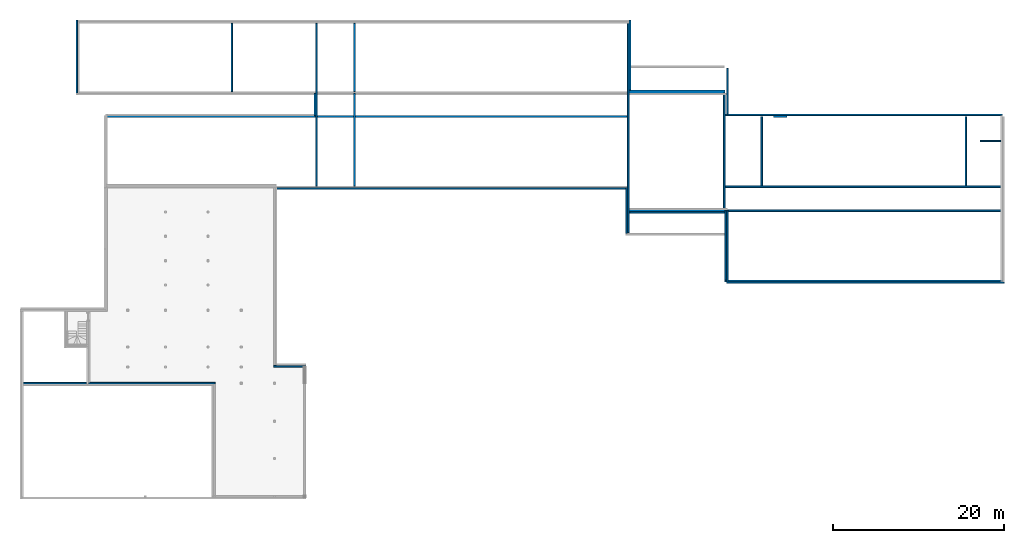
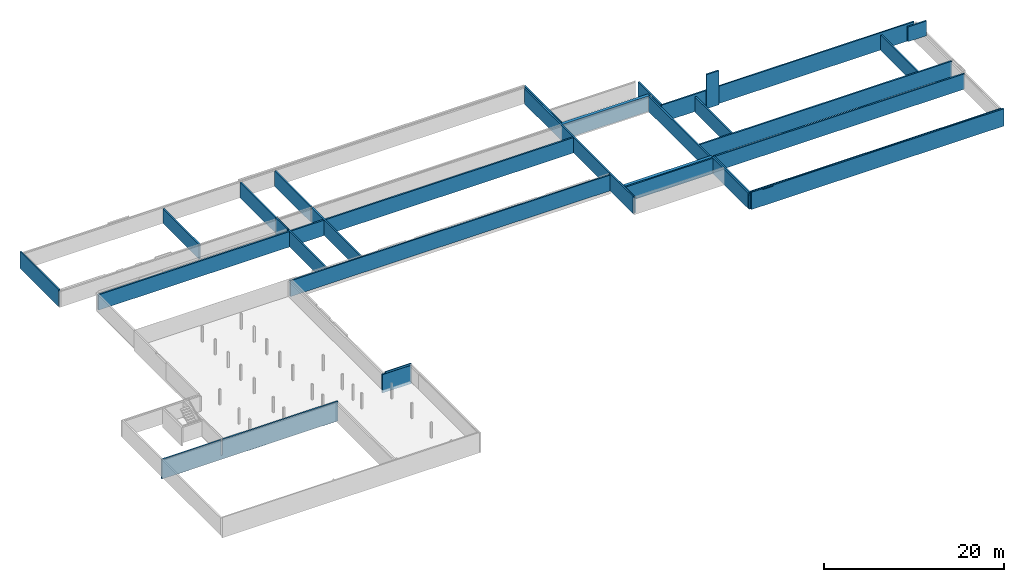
# One storey, part 3 of 6: 29 walls, 1 opening.
"""IFC2X3 building model written with IfcOpenShell, lengths in centimetres."""

from ifc_helpers import new_model, entity, si_unit, converted_unit, derived_unit, direction, frame, frame_2d, origin, place, context, subcontext, project, spatial, polyline, rectangle, extrude, clip, halfspace, bounded_halfspace, faceted_brep, material, layer, layer_set, layer_usage, type_object, element, save


model = new_model("IFC2X3")

# Units and contexts
model_context = context("Model", 3, precision=0.001, world=origin(), true_north=direction((6.12303176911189e-17, 1.0)))
body_context = subcontext(model_context, "Body", "Model", "MODEL_VIEW")
ifc_project = project(units=[si_unit("LENGTHUNIT", "METRE", prefix="CENTI"), si_unit("AREAUNIT", "SQUARE_METRE"), si_unit("VOLUMEUNIT", "CUBIC_METRE"), converted_unit("PLANEANGLEUNIT", "DEGREE", entity("IfcRatioMeasure", 0.0174532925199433), si_unit("PLANEANGLEUNIT", "RADIAN"), dimensions=[0, 0, 0, 0, 0, 0, 0]), si_unit("MASSUNIT", "GRAM", prefix="KILO"), derived_unit("MASSDENSITYUNIT", [(si_unit("MASSUNIT", "GRAM", prefix="KILO"), 1), (si_unit("LENGTHUNIT", "METRE"), -3)]), si_unit("TIMEUNIT", "SECOND"), si_unit("FREQUENCYUNIT", "HERTZ"), si_unit("THERMODYNAMICTEMPERATUREUNIT", "DEGREE_CELSIUS"), derived_unit("THERMALTRANSMITTANCEUNIT", [(si_unit("MASSUNIT", "GRAM", prefix="KILO"), 1), (si_unit("THERMODYNAMICTEMPERATUREUNIT", "KELVIN"), -1), (si_unit("TIMEUNIT", "SECOND"), -3)]), derived_unit("VOLUMETRICFLOWRATEUNIT", [(si_unit("LENGTHUNIT", "METRE"), 3), (si_unit("TIMEUNIT", "SECOND"), -1)]), si_unit("ELECTRICCURRENTUNIT", "AMPERE"), si_unit("ELECTRICVOLTAGEUNIT", "VOLT"), si_unit("POWERUNIT", "WATT"), si_unit("FORCEUNIT", "NEWTON", prefix="KILO"), si_unit("ILLUMINANCEUNIT", "LUX"), si_unit("LUMINOUSFLUXUNIT", "LUMEN"), si_unit("LUMINOUSINTENSITYUNIT", "CANDELA"), derived_unit("USERDEFINED", [(si_unit("MASSUNIT", "GRAM", prefix="KILO"), -1), (si_unit("LENGTHUNIT", "METRE"), -2), (si_unit("TIMEUNIT", "SECOND"), 3), (si_unit("LUMINOUSFLUXUNIT", "LUMEN"), 1)]), derived_unit("LINEARVELOCITYUNIT", [(si_unit("LENGTHUNIT", "METRE"), 1), (si_unit("TIMEUNIT", "SECOND"), -1)]), si_unit("PRESSUREUNIT", "PASCAL"), derived_unit("USERDEFINED", [(si_unit("LENGTHUNIT", "METRE"), -2), (si_unit("MASSUNIT", "GRAM", prefix="KILO"), 1), (si_unit("TIMEUNIT", "SECOND"), -2)])], contexts=[model_context])

# Site, building, storey
site_placement = place(None, frame((-2781.94577612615, 7442.24238424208, 0.0)))
site = spatial("IfcSite", under=ifc_project, at=site_placement, Name="Default", CompositionType="ELEMENT")
building_placement = place(site_placement, origin())
building = spatial("IfcBuilding", under=site, at=building_placement, CompositionType="ELEMENT")
storey_placement = place(building_placement, frame((0.0, 0.0, -234.674140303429)))
storey = spatial("IfcBuildingStorey", under=building, at=storey_placement, Name="Vide Sanitaire", CompositionType="ELEMENT", Elevation=-234.674140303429)

# Walls
ifc_material_1 = material(Name="01 - Maçonnerie")
ifc_layer_1 = layer(ifc_material_1, 20.0)
ifc_layer_set_1 = layer_set([ifc_layer_1], Name="Mur de base:04 - Structure - béton - 20cm")
ifc_layer_usage_1 = layer_usage(ifc_layer_set_1, "AXIS2", "NEGATIVE", 10.0)
wall_type_1 = type_object("IfcWallType", Name="Mur de base:04 - Structure - béton - 20cm", PredefinedType="STANDARD", material=ifc_layer_set_1)
wall_1_placement = place(storey_placement, frame((-427.999882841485, -3020.3134995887, 0.0), z_axis=(0.0, 0.0, 1.0), x_axis=(-1.0, 0.0, 0.0)))
element("IfcWallStandardCase", 1, at=wall_1_placement, inside=storey, type_object=wall_type_1, material=ifc_layer_usage_1, Name="Mur de base:04 - Structure - béton - 20cm", ObjectType="Mur de base:04 - Structure - béton - 20cm", context=body_context, shape_type="Clipping", body=[
    clip(extrude(rectangle(XDim=3221.49999684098, YDim=19.9999999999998, at=frame_2d((1610.74999842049, -2.1316282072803e-14), x_axis=(-1.0, 0.0))), origin(), (0.0, 0.0, 1.0), 190.0), halfspace(frame((0.0, -10.0, 190.0), z_axis=(0.0, 0.0, 1.0), x_axis=(0.0, 1.0, 0.0)), False)),
])
ifc_layer_usage_2 = layer_usage(ifc_layer_set_1, "AXIS2", "NEGATIVE", 10.0)
wall_2_placement = place(storey_placement, frame((-3639.49987968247, -3010.31349958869, 0.0), z_axis=(0.0, 0.0, 1.0), x_axis=(0.0, 1.0, 0.0)))
element("IfcWallStandardCase", 2, at=wall_2_placement, inside=storey, type_object=wall_type_1, material=ifc_layer_usage_2, Name="Mur de base:04 - Structure - béton - 20cm", ObjectType="Mur de base:04 - Structure - béton - 20cm", context=body_context, shape_type="Clipping", body=[
    clip(extrude(rectangle(XDim=810.0, YDim=19.9999999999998, at=frame_2d((405.0, -2.8421709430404e-14), x_axis=(-1.0, 0.0))), origin(), (0.0, 0.0, 1.0), 208.674140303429), bounded_halfspace(frame((810.0, -10.0, 208.674140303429), z_axis=(0.0, 0.0, -1.0), x_axis=(-1.0, 0.0, 0.0)), True, frame((810.0, -10.0, 208.674140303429)), polyline([(0.0, 0.0), (0.0, 7.10442922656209), (0.0, 20.0), (-263.533067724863, 20.0), (-263.533067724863, 7.10442922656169), (-810.0, 7.10442922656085), (-810.0, 0.0), (0.0, 0.0)]))),
])
ifc_layer_usage_3 = layer_usage(ifc_layer_set_1, "AXIS2", "NEGATIVE", 10.0)
wall_3_placement = place(storey_placement, frame((-4777.99987760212, -2456.15656731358, 0.0), z_axis=(0.0, 0.0, 1.0), x_axis=(0.0, 1.0, 0.0)))
element("IfcWallStandardCase", 3, at=wall_3_placement, inside=storey, type_object=wall_type_1, material=ifc_layer_usage_3, Name="Mur de base:04 - Structure - béton - 20cm", ObjectType="Mur de base:04 - Structure - béton - 20cm", context=body_context, shape_type="Clipping", body=[
    clip(extrude(rectangle(XDim=2441.00000000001, YDim=20.0000000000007, at=frame_2d((1220.50000000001, -1.89182003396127e-13), x_axis=(-1.0, 0.0))), origin(), (0.0, 0.0, 1.0), 208.674140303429), bounded_halfspace(frame((2441.0, -8.72556480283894, 208.674140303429), z_axis=(0.0, 0.0, -1.0), x_axis=(-1.0, 0.0, 0.0)), True, frame((2441.0, -8.72556480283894, 208.674140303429)), polyline([(0.0, 0.0), (0.0, 18.7255648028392), (-794.891933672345, 18.7255648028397), (-814.891933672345, 18.7255648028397), (-1069.53343258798, 18.7255648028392), (-1069.53343258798, 0.0), (-493.391933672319, 0.0), (0.0, 0.0)]))),
])
wall_4_placement = place(storey_placement, frame((-8921.93218005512, -4016.27903364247, -40.0)))
element("IfcWall", 4, at=wall_4_placement, inside=storey, type_object=wall_type_1, Name="Mur de base:04 - Structure - béton - 20cm", ObjectType="Mur de base:04 - Structure - béton - 20cm", context=body_context, shape_type="Brep", body=[
    faceted_brep([(0.0, -10.0, 0.0), (372.944799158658, -10.0, 0.0), (372.944799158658, -10.0, 40.0), (372.944799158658, -10.0, 239.674140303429), (372.944799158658, -10.0, 248.674140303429), (0.0, -10.0, 248.674140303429), (372.944799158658, 10.0, 0.0), (20.0, 10.0, 0.0), (0.0, 10.0, 0.0), (0.0, 10.0, 248.674140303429), (20.0, 10.0, 248.674140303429), (40.0, 10.0, 248.674140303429), (40.0, 10.0, 254.674140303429), (372.944799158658, 10.0, 254.674140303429), (372.944799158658, 0.711907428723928, 254.674140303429), (372.944799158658, 0.711907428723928, 274.674140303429), (372.944799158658, -7.48999999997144, 274.674140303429), (372.944799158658, -7.48999999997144, 248.674140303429), (40.0, 0.711907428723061, 274.674140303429), (40.0, -7.48999999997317, 274.674140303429), (40.0, 0.711907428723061, 254.674140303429), (40.0, -7.48999999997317, 248.674140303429)], [[[0, 1, 2, 3, 4, 5]], [[6, 7, 8, 9, 10, 11, 12, 13]], [[8, 0, 5, 9]], [[1, 6, 13, 14, 15, 16, 17, 4, 3, 2]], [[1, 0, 8, 7, 6]], [[15, 18, 19, 16]], [[20, 14, 13, 12]], [[14, 20, 18, 15]], [[17, 21, 11, 10, 9, 5, 4]], [[21, 17, 16, 19]], [[21, 19, 18, 20, 12, 11]]]),
])
ifc_layer_usage_4 = layer_usage(ifc_layer_set_1, "AXIS2", "NEGATIVE", 10.0)
wall_5_placement = place(storey_placement, frame((-8419.49987766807, -1911.38903364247, 0.0), z_axis=(0.0, 0.0, 1.0), x_axis=(0.0, 1.0, 0.0)))
element("IfcWallStandardCase", 5, at=wall_5_placement, inside=storey, type_object=wall_type_1, material=ifc_layer_usage_4, Name="Mur de base:04 - Structure - béton - 20cm", ObjectType="Mur de base:04 - Structure - béton - 20cm", context=body_context, shape_type="Clipping", body=[
    clip(clip(extrude(rectangle(XDim=1901.38903364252, YDim=19.9999999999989, at=frame_2d((950.694516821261, 0.0), x_axis=(-1.0, 0.0))), origin(), (0.0, 0.0, 1.0), 208.674140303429), bounded_halfspace(frame((1095.3405326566, -10.0, 208.674140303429), z_axis=(0.0, 0.0, -1.0), x_axis=(-1.0, 0.0, 0.0)), True, frame((1095.3405326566, -10.0, 208.674140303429)), polyline([(0.0, 0.0), (6.0, 0.0), (806.048500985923, 0.0), (806.048500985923, 20.0), (0.0, 20.0), (0.0, 0.0)]))), bounded_halfspace(frame((0.0, -10.0, 208.674140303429), z_axis=(0.0, 0.0, -1.0), x_axis=(-1.0, 0.0, 0.0)), True, frame((0.0, -10.0, 208.674140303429)), polyline([(0.0, 0.0), (835.389033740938, 0.0), (835.389033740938, 20.0), (0.0, 20.0), (0.0, 0.0)]))),
])
ifc_layer_usage_5 = layer_usage(ifc_layer_set_1, "AXIS2", "NEGATIVE", 10.0)
wall_6_placement = place(storey_placement, frame((-3657.99987968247, -830.048500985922, 0.0), z_axis=(0.0, 0.0, 1.0), x_axis=(0.0, -1.0, 0.0)))
element("IfcWallStandardCase", 6, at=wall_6_placement, inside=storey, type_object=wall_type_1, material=ifc_layer_usage_5, Name="Mur de base:04 - Structure - béton - 20cm", ObjectType="Mur de base:04 - Structure - béton - 20cm", context=body_context, shape_type="Clipping", body=[
    clip(extrude(rectangle(XDim=1342.66808075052, YDim=19.9999999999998, at=frame_2d((671.334040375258, -4.35207425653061e-14), x_axis=(-1.0, 0.0))), origin(), (0.0, 0.0, 1.0), 208.674140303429), bounded_halfspace(frame((258.641498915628, -10.0, 208.674140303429), z_axis=(0.0, 0.0, -1.0), x_axis=(1.0, 0.0, 0.0)), True, frame((258.641498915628, -10.0, 208.674140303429)), polyline([(0.0, 0.0), (1084.02658183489, 0.0), (1084.02658183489, 20.0), (841.38903374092, 20.0), (821.38903374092, 20.0), (0.0, 20.0), (0.0, 0.0)]))),
])
ifc_layer_usage_6 = layer_usage(ifc_layer_set_1, "AXIS2", "NEGATIVE", 10.0)
wall_7_placement = place(storey_placement, frame((-409.999882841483, -1920.07903364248, 0.0), z_axis=(0.0, 0.0, 1.0), x_axis=(-1.0, 0.0, 0.0)))
element("IfcWallStandardCase", 7, at=wall_7_placement, inside=storey, type_object=wall_type_1, material=ifc_layer_usage_6, Name="Mur de base:04 - Structure - béton - 20cm", ObjectType="Mur de base:04 - Structure - béton - 20cm", context=body_context, shape_type="Clipping", body=[
    clip(extrude(rectangle(XDim=3237.99999684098, YDim=19.9999999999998, at=frame_2d((1618.99999842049, -2.66453525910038e-15), x_axis=(-1.0, 0.0))), origin(), (0.0, 0.0, 1.0), 208.674140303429), bounded_halfspace(frame((3238.0, 8.76753367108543, 208.674140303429), z_axis=(0.0, 0.0, -1.0), x_axis=(0.0, 1.0, 0.0)), True, frame((3238.0, 8.76753367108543, 208.674140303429)), polyline([(0.0, 0.0), (0.0, 1.23246632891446), (-3238.0, 1.23246632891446), (-3238.0, 0.0), (-3238.0, -18.7675336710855), (-2822.69999684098, -18.7675336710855), (-2802.69999684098, -18.7675336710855), (-438.40620433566, -18.7675336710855), (-418.406204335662, -18.7675336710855), (0.0, -18.7675336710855), (0.0, 0.0)]))),
])
ifc_layer_usage_7 = layer_usage(ifc_layer_set_1, "AXIS2", "NEGATIVE", 10.0)
wall_8_placement = place(storey_placement, frame((-3639.49987968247, -2200.15656731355, 0.0)))
element("IfcWallStandardCase", 8, at=wall_8_placement, inside=storey, type_object=wall_type_1, material=ifc_layer_usage_7, Name="Mur de base:04 - Structure - béton - 20cm", ObjectType="Mur de base:04 - Structure - béton - 20cm", context=body_context, shape_type="Clipping", body=[
    clip(extrude(rectangle(XDim=3229.49999684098, YDim=19.9999999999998, at=frame_2d((1614.74999842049, 6.21724893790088e-15), x_axis=(-1.0, 0.0))), origin(), (0.0, 0.0, 1.0), 208.674140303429), bounded_halfspace(frame((0.0, -10.0, 208.674140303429), z_axis=(0.0, 0.0, -1.0), x_axis=(0.0, -1.0, 0.0)), True, frame((0.0, -10.0, 208.674140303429)), polyline([(0.0, 0.0), (3229.49999684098, 0.0), (3229.49999684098, 20.0), (0.0, 20.0), (0.0, 0.0)]))),
])
ifc_layer_usage_8 = layer_usage(ifc_layer_set_1, "AXIS2", "NEGATIVE", 10.0)
wall_9_placement = place(storey_placement, frame((-3081.79988284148, -1100.0, 0.0)))
element("IfcWallStandardCase", 9, at=wall_9_placement, inside=storey, type_object=wall_type_1, material=ifc_layer_usage_8, Name="Mur de base:04 - Structure - béton - 20cm", ObjectType="Mur de base:04 - Structure - béton - 20cm", context=body_context, shape_type="SweptSolid", body=[
    extrude(rectangle(XDim=155.750000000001, YDim=20.0000000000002, at=frame_2d((77.8750000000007, 1.59872115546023e-14), x_axis=(-1.0, 0.0))), origin(), (0.0, 0.0, 1.0), 463.0),
])
ifc_layer_usage_9 = layer_usage(ifc_layer_set_1, "AXIS2", "NEGATIVE", 10.0)
wall_10_placement = place(storey_placement, frame((-3219.59367534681, -1100.0, 0.0), z_axis=(0.0, 0.0, 1.0), x_axis=(0.0, -1.0, 0.0)))
element("IfcWallStandardCase", 10, at=wall_10_placement, inside=storey, type_object=wall_type_1, material=ifc_layer_usage_9, Name="Mur de base:04 - Structure - béton - 20cm", ObjectType="Mur de base:04 - Structure - béton - 20cm", context=body_context, shape_type="Clipping", body=[
    clip(extrude(rectangle(XDim=810.079033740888, YDim=19.9999999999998, at=frame_2d((405.039516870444, -2.22044604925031e-14), x_axis=(-1.0, 0.0))), origin(), (0.0, 0.0, 1.0), 208.674140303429), bounded_halfspace(frame((0.0, -10.0, 208.674140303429), z_axis=(0.0, 0.0, -1.0), x_axis=(1.0, 0.0, 0.0)), True, frame((0.0, -10.0, 208.674140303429)), polyline([(0.0, 0.0), (810.079033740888, 0.0), (810.079033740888, 20.0), (0.0, 20.0), (0.0, 0.0)]))),
])
ifc_layer_usage_10 = layer_usage(ifc_layer_set_1, "AXIS2", "NEGATIVE", 10.0)
wall_11_placement = place(storey_placement, frame((-835.299882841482, -1100.0, 0.0), z_axis=(0.0, 0.0, 1.0), x_axis=(0.0, -1.0, 0.0)))
element("IfcWallStandardCase", 11, at=wall_11_placement, inside=storey, type_object=wall_type_1, material=ifc_layer_usage_10, Name="Mur de base:04 - Structure - béton - 20cm", ObjectType="Mur de base:04 - Structure - béton - 20cm", context=body_context, shape_type="Clipping", body=[
    clip(extrude(rectangle(XDim=810.079033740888, YDim=20.0, at=frame_2d((405.039516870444, -2.22044604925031e-14), x_axis=(-1.0, 0.0))), origin(), (0.0, 0.0, 1.0), 208.674140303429), bounded_halfspace(frame((0.0, -10.0, 208.674140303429), z_axis=(0.0, 0.0, -1.0), x_axis=(1.0, 0.0, 0.0)), True, frame((0.0, -10.0, 208.674140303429)), polyline([(0.0, 0.0), (810.079033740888, 0.0), (810.079033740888, 20.0), (0.0, 20.0), (0.0, 0.0)]))),
])
ifc_layer_usage_11 = layer_usage(ifc_layer_set_1, "AXIS2", "NEGATIVE", 10.0)
wall_12_placement = place(storey_placement, frame((-10881.6130476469, -1100.0, 0.0)))
element("IfcWallStandardCase", 12, at=wall_12_placement, inside=storey, type_object=wall_type_1, material=ifc_layer_usage_11, Name="Mur de base:04 - Structure - béton - 20cm", ObjectType="Mur de base:04 - Structure - béton - 20cm", context=body_context, shape_type="SweptSolid", body=[
    extrude(rectangle(XDim=6093.61317004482, YDim=19.9999999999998, at=frame_2d((3046.80658502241, -1.59872115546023e-14), x_axis=(-1.0, 0.0))), origin(), (0.0, 0.0, 1.0), 208.674140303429),
])
wall_13_placement = place(storey_placement, frame((-9604.98738089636, -4215.50027342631, -55.1214879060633), z_axis=(0.0, 0.0, 1.0), x_axis=(-1.0, 0.0, 0.0)))
element("IfcWall", 13, at=wall_13_placement, inside=storey, type_object=wall_type_1, Name="Mur de base:04 - Structure - béton - 20cm", ObjectType="Mur de base:04 - Structure - béton - 20cm", context=body_context, shape_type="Brep", body=[
    faceted_brep([(0.0, -10.0, 0.0), (2259.36319372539, -10.0, 0.0), (2259.36319372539, -10.0, 263.795628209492), (1499.89542707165, -10.0, 263.795628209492), (1499.89542707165, -10.0, 55.1214879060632), (1481.89542707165, -10.0, 55.1214879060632), (1481.89542707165, -10.0, 263.795628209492), (1461.89542707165, -10.0, 263.795628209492), (0.0, -10.0, 263.795628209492), (2259.36319372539, 10.0, 0.0), (0.0, 10.0, 0.0), (0.0, 10.0, 15.1214879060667), (0.0, 10.0, 254.795628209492), (0.0, 10.0, 263.795628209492), (1481.89542707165, 10.0, 263.795628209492), (1481.89542707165, 10.0, 55.1214879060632), (1499.89542707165, 10.0, 55.1214879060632), (1499.89542707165, 10.0, 263.795628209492), (2259.36319372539, 10.0, 263.795628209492)], [[[0, 1, 2, 3, 4, 5, 6, 7, 8]], [[9, 10, 11, 12, 13, 14, 15, 16, 17, 18]], [[2, 18, 17, 3]], [[2, 1, 9, 18]], [[0, 8, 13, 12, 11, 10]], [[16, 4, 3, 17]], [[5, 15, 14, 6]], [[4, 16, 15, 5]], [[1, 0, 10, 9]], [[13, 8, 7, 6, 14]]]),
])
ifc_layer_usage_12 = layer_usage(ifc_layer_set_1, "AXIS2", "NEGATIVE", 10.0)
wall_14_placement = place(storey_placement, frame((-9409.49987766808, -810.0485009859, 0.0), z_axis=(0.0, 0.0, 1.0), x_axis=(0.0, 1.0, 0.0)))
element("IfcWallStandardCase", 14, at=wall_14_placement, inside=storey, type_object=wall_type_1, material=ifc_layer_usage_12, Name="Mur de base:04 - Structure - béton - 20cm", ObjectType="Mur de base:04 - Structure - béton - 20cm", context=body_context, shape_type="Clipping", body=[
    clip(extrude(rectangle(XDim=800.048500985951, YDim=19.9999999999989, at=frame_2d((400.024250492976, 0.0), x_axis=(-1.0, 0.0))), origin(), (0.0, 0.0, 1.0), 199.674140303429), bounded_halfspace(frame((0.0, -10.0, 199.674140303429), z_axis=(0.0, 0.0, -1.0), x_axis=(-1.0, 0.0, 0.0)), True, frame((0.0, -10.0, 199.674140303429), z_axis=(0.0, 0.0, -1.0), x_axis=(-1.0, 0.0, 0.0)), polyline([(0.0, 0.0), (0.0, 20.0), (-800.048500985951, 20.0), (-800.048500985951, 0.0), (0.0, 0.0)]))),
])
wall_15_placement = place(storey_placement, frame((-7976.49987760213, -1911.38903364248, 0.0), z_axis=(0.0, 0.0, 1.0), x_axis=(0.0, 1.0, 0.0)))
element("IfcWall", 15, at=wall_15_placement, inside=storey, type_object=wall_type_1, Name="Mur de base:04 - Structure - béton - 20cm", ObjectType="Mur de base:04 - Structure - béton - 20cm", context=body_context, shape_type="SweptSolid", body=[
    extrude(rectangle(XDim=1081.34053265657, YDim=20.0000000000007, at=frame_2d((-174.223422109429, 8.66862137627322e-13), x_axis=(1.0, 0.0))), frame((714.893688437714, 0.0, 0.0)), (0.0, 0.0, 1.0), 208.674140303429),
    extrude(rectangle(XDim=800.048500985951, YDim=20.0000000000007, at=frame_2d((-1.13686837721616e-13, -8.66862137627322e-13), x_axis=(1.0, 0.0))), frame((1501.36478314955, 0.0, 0.0), z_axis=(0.0, 0.0, 1.0), x_axis=(-1.0, 0.0, 0.0)), (0.0, 0.0, 1.0), 208.674140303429),
])
ifc_layer_usage_13 = layer_usage(ifc_layer_set_1, "AXIS2", "NEGATIVE", 10.0)
wall_16_placement = place(storey_placement, frame((-3629.49987968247, -3020.31349958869, 0.0)))
element("IfcWallStandardCase", 16, at=wall_16_placement, inside=storey, type_object=wall_type_1, material=ifc_layer_usage_13, Name="Mur de base:04 - Structure - béton - 20cm", ObjectType="Mur de base:04 - Structure - béton - 20cm", context=body_context, shape_type="Clipping", body=[
    clip(clip(extrude(rectangle(XDim=3219.49999684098, YDim=19.9999999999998, at=frame_2d((1609.74999842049, -9.76996261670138e-15), x_axis=(-1.0, 0.0))), origin(), (0.0, 0.0, 1.0), 234.674140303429), bounded_halfspace(frame((0.0, 4.0, 208.674140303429), z_axis=(0.0, 0.0, -1.0), x_axis=(0.0, -1.0, 0.0)), True, frame((0.0, 4.0, 208.674140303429), z_axis=(0.0, 0.0, -1.0), x_axis=(0.0, -1.0, 0.0)), polyline([(0.0, 0.0), (-6.0, 0.0), (-6.0, -3219.49999684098), (0.0, -3219.49999684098), (0.0, 0.0)]))), bounded_halfspace(frame((3219.49999684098, 4.0, 208.674140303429), z_axis=(0.0, -1.0, 0.0), x_axis=(0.0, 0.0, 1.0)), True, frame((3219.49999684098, 4.0, 208.674140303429), z_axis=(0.0, -1.0, 0.0), x_axis=(0.0, 0.0, 1.0)), polyline([(0.0, 0.0), (26.0, 0.0), (26.0, 3219.49999684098), (0.0, 3219.49999684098), (0.0, 0.0)]))),
])
ifc_layer_usage_14 = layer_usage(ifc_layer_set_1, "AXIS2", "NEGATIVE", 10.0)
wall_17_placement = place(storey_placement, frame((-665.299882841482, -1384.07903364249, 234.674140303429)))
element("IfcWallStandardCase", 17, at=wall_17_placement, inside=storey, type_object=wall_type_1, material=ifc_layer_usage_14, Name="Mur de base:04 - Structure - béton - 20cm", ObjectType="Mur de base:04 - Structure - béton - 20cm", context=body_context, shape_type="SweptSolid", body=[
    extrude(rectangle(XDim=240.000000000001, YDim=19.9999999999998, at=frame_2d((120.000000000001, -6.12843109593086e-14), x_axis=(-1.0, 0.0))), origin(), (0.0, 0.0, 1.0), 199.44),
])
ifc_layer_2 = layer(ifc_material_1, 40.0)
ifc_layer_set_2 = layer_set([ifc_layer_2], Name="Mur de base:04 - Structure - Béton - 40")
ifc_layer_usage_15 = layer_usage(ifc_layer_set_2, "AXIS2", "NEGATIVE", 20.0)
wall_type_2 = type_object("IfcWallType", Name="Mur de base:04 - Structure - Béton - 40", PredefinedType="STANDARD", material=ifc_layer_set_2)
wall_18_placement = place(storey_placement, frame((-4767.99987760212, -810.048500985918, 0.0)))
element("IfcWallStandardCase", 18, at=wall_18_placement, inside=storey, type_object=wall_type_2, material=ifc_layer_usage_15, Name="Mur de base:04 - Structure - Béton - 40", ObjectType="Mur de base:04 - Structure - Béton - 40", context=body_context, shape_type="SweptSolid", body=[
    extrude(rectangle(XDim=1119.99999791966, YDim=40.0, at=frame_2d((559.999998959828, 0.0), x_axis=(-1.0, 0.0))), origin(), (0.0, 0.0, 1.0), 208.674140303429),
])
ifc_layer_usage_16 = layer_usage(ifc_layer_set_2, "AXIS2", "NEGATIVE", 20.0)
wall_19_placement = place(storey_placement, frame((-3639.49987968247, -2192.71658173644, 0.0), z_axis=(0.0, 0.0, 1.0), x_axis=(-1.0, 0.0, 0.0)))
element("IfcWallStandardCase", 19, at=wall_19_placement, inside=storey, type_object=wall_type_2, material=ifc_layer_usage_16, Name="Mur de base:04 - Structure - Béton - 40", ObjectType="Mur de base:04 - Structure - Béton - 40", context=body_context, shape_type="Clipping", body=[
    clip(extrude(rectangle(XDim=1128.49999791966, YDim=39.9999999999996, at=frame_2d((564.249998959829, 1.4210854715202e-14), x_axis=(-1.0, 0.0))), origin(), (0.0, 0.0, 1.0), 208.674140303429), bounded_halfspace(frame((0.0, -20.0, 208.674140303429), z_axis=(0.0, 0.0, -1.0), x_axis=(0.0, 1.0, 0.0)), True, frame((0.0, -20.0, 208.674140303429)), polyline([(0.0, 0.0), (8.50000000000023, 0.0), (28.5000000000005, 0.0), (1128.49999791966, 0.0), (1128.49999791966, 40.0), (0.0, 40.0), (0.0, 37.4399855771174), (0.0, 17.4399855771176), (0.0, 0.0)]))),
])
ifc_material_2 = material(Name="00 - Isolant")
ifc_layer_3 = layer(ifc_material_2, 18.0)
ifc_layer_set_3 = layer_set([ifc_layer_3], Name="Mur de base:04 - Parement - ITE 18 - isolation enterrée")
ifc_layer_usage_17 = layer_usage(ifc_layer_set_3, "AXIS2", "NEGATIVE", 9.0)
wall_type_3 = type_object("IfcWallType", Name="Mur de base:04 - Parement - ITE 18 - isolation enterrée", PredefinedType="STANDARD", material=ifc_layer_set_3)
wall_20_placement = place(storey_placement, frame((-3647.99987968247, -1081.0, 0.0)))
element("IfcWallStandardCase", 20, at=wall_20_placement, inside=storey, type_object=wall_type_3, material=ifc_layer_usage_17, Name="Mur de base:04 - Parement - ITE 18 - isolation enterrée", ObjectType="Mur de base:04 - Parement - ITE 18 - isolation enterrée", context=body_context, shape_type="SweptSolid", body=[
    extrude(rectangle(XDim=3237.99999684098, YDim=17.9999999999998, at=frame_2d((1618.99999842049, -2.66453525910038e-15), x_axis=(-1.0, 0.0))), origin(), (0.0, 0.0, 1.0), 234.674140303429),
])

# Wall, opening
ifc_layer_usage_18 = layer_usage(ifc_layer_set_3, "AXIS2", "NEGATIVE", 9.0)
wall_21_placement = place(storey_placement, frame((-389.999882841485, -3039.3134995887, 0.0), z_axis=(0.0, 0.0, 1.0), x_axis=(-1.0, 0.0, 0.0)))
wall_21 = element("IfcWallStandardCase", 21, at=wall_21_placement, inside=storey, type_object=wall_type_3, material=ifc_layer_usage_18, Name="Mur de base:04 - Parement - ITE 18 - isolation enterrée", ObjectType="Mur de base:04 - Parement - ITE 18 - isolation enterrée", context=body_context, shape_type="SweptSolid", body=[
    extrude(rectangle(XDim=3239.49999684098, YDim=18.0000000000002, at=frame_2d((1619.74999842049, -2.1316282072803e-14), x_axis=(-1.0, 0.0))), origin(), (0.0, 0.0, 1.0), 234.674140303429),
])
opening_placement = place(wall_21_placement, frame((3096.68392582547, 11.1000000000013, 219.674140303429)))
element("IfcOpeningElement", 22, at=opening_placement, cuts=wall_21, Name="Mur de base:04 - Parement - ITE 18 - isolation enterrée", ObjectType="Opening", context=body_context, shape_type="Brep", body=[
    faceted_brep([(-2.0, 0.0, 319.0), (-2.0, 0.0, 0.0), (-134.383925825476, 0.0, 0.0), (-134.383925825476, 0.0, 319.0), (-2.0, -1.30000000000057, 319.0), (-2.0, -1.30000000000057, 0.0), (0.0, -1.30000000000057, 0.0), (0.0, -61.3000000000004, 0.0), (-136.383925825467, -61.3000000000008, 0.0), (-136.383925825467, -1.300000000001, 0.0), (-134.383925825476, -1.30000000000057, 0.0), (-134.383925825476, -1.30000000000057, 319.0), (-136.383925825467, -61.3000000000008, 321.0), (0.0, -61.3000000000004, 321.0), (-136.383925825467, -1.300000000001, 321.0), (0.0, -1.30000000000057, 321.0)], [[[0, 1, 2, 3]], [[1, 0, 4, 5]], [[2, 1, 5, 6, 7, 8, 9, 10]], [[3, 2, 10, 11]], [[0, 3, 11, 4]], [[12, 8, 7, 13]], [[14, 15, 6, 5, 4, 11, 10, 9]], [[8, 12, 14, 9]], [[13, 7, 6, 15]], [[12, 13, 15, 14]]]),
])

# Walls
ifc_layer_usage_19 = layer_usage(ifc_layer_set_3, "AXIS2", "NEGATIVE", 9.0)
wall_22_placement = place(storey_placement, frame((-3620.49987968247, -3030.31349958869, 0.0), z_axis=(0.0, 0.0, 1.0), x_axis=(0.0, 1.0, 0.0)))
element("IfcWallStandardCase", 23, at=wall_22_placement, inside=storey, type_object=wall_type_3, material=ifc_layer_usage_19, Name="Mur de base:04 - Parement - ITE 18 - isolation enterrée", ObjectType="Mur de base:04 - Parement - ITE 18 - isolation enterrée", context=body_context, shape_type="Clipping", body=[
    clip(extrude(rectangle(XDim=830.0, YDim=18.0000000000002, at=frame_2d((415.0, -1.33226762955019e-14), x_axis=(-1.0, 0.0))), origin(), (0.0, 0.0, 1.0), 208.674140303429), bounded_halfspace(frame((830.0, 9.0, 208.674140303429), z_axis=(0.0, 0.0, -1.0), x_axis=(-1.0, 0.0, 0.0)), True, frame((830.0, 9.0, 208.674140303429)), polyline([(0.0, 0.0), (-12.4030821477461, 0.0), (-30.4030821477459, 0.0), (-816.0, 0.0), (-816.0, -18.0), (-810.0, -18.0), (-9.84306772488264, -18.0), (0.0, -18.0), (0.0, 0.0)]))),
])
ifc_layer_usage_20 = layer_usage(ifc_layer_set_3, "AXIS2", "NEGATIVE", 9.0)
wall_23_placement = place(storey_placement, frame((-4797.49987760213, -2465.15656731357, 0.0), z_axis=(0.0, 0.0, 1.0), x_axis=(0.0, 1.0, 0.0)))
element("IfcWallStandardCase", 24, at=wall_23_placement, inside=storey, type_object=wall_type_3, material=ifc_layer_usage_20, Name="Mur de base:04 - Parement - ITE 18 - isolation enterrée", ObjectType="Mur de base:04 - Parement - ITE 18 - isolation enterrée", context=body_context, shape_type="SweptSolid", body=[
    extrude(rectangle(XDim=533.767533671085, YDim=17.9999999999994, at=frame_2d((266.883766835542, -8.88178419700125e-16), x_axis=(-1.0, 0.0))), origin(), (0.0, 0.0, 1.0), 234.674140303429),
])
ifc_layer_usage_21 = layer_usage(ifc_layer_set_3, "AXIS2", "NEGATIVE", 9.0)
wall_24_placement = place(storey_placement, frame((-4787.99987760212, -1939.07903364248, 0.0), z_axis=(0.0, 0.0, 1.0), x_axis=(-1.0, 0.0, 0.0)))
element("IfcWallStandardCase", 25, at=wall_24_placement, inside=storey, type_object=wall_type_3, material=ifc_layer_usage_21, Name="Mur de base:04 - Parement - ITE 18 - isolation enterrée", ObjectType="Mur de base:04 - Parement - ITE 18 - isolation enterrée", context=body_context, shape_type="SweptSolid", body=[
    extrude(rectangle(XDim=4113.93230245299, YDim=17.9999999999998, at=frame_2d((2056.9661512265, -3.01980662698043e-14), x_axis=(-1.0, 0.0))), origin(), (0.0, 0.0, 1.0), 214.674140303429),
])
ifc_layer_usage_22 = layer_usage(ifc_layer_set_3, "AXIS2", "NEGATIVE", 9.0)
wall_25_placement = place(storey_placement, frame((-8438.49987766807, -1090.0, 0.0), z_axis=(0.0, 0.0, 1.0), x_axis=(0.0, 1.0, 0.0)))
element("IfcWallStandardCase", 26, at=wall_25_placement, inside=storey, type_object=wall_type_3, material=ifc_layer_usage_22, Name="Mur de base:04 - Parement - ITE 18 - isolation enterrée", ObjectType="Mur de base:04 - Parement - ITE 18 - isolation enterrée", context=body_context, shape_type="SweptSolid", body=[
    extrude(rectangle(XDim=259.951498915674, YDim=17.9999999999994, at=frame_2d((129.975749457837, 0.0), x_axis=(-1.0, 0.0))), origin(), (0.0, 0.0, 1.0), 234.674140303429),
])
ifc_layer_usage_23 = layer_usage(ifc_layer_set_3, "AXIS2", "NEGATIVE", 9.0)
wall_26_placement = place(storey_placement, frame((-11219.6616968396, -830.048500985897, 0.0), z_axis=(0.0, 0.0, 1.0), x_axis=(0.0, 1.0, 0.0)))
element("IfcWallStandardCase", 27, at=wall_26_placement, inside=storey, type_object=wall_type_3, material=ifc_layer_usage_23, Name="Mur de base:04 - Parement - ITE 18 - isolation enterrée", ObjectType="Mur de base:04 - Parement - ITE 18 - isolation enterrée", context=body_context, shape_type="SweptSolid", body=[
    extrude(rectangle(XDim=858.048500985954, YDim=17.9999999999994, at=frame_2d((429.024250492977, 1.86517468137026e-14), x_axis=(-1.0, 0.0))), origin(), (0.0, 0.0, 1.0), 228.674140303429),
])
ifc_layer_usage_24 = layer_usage(ifc_layer_set_3, "AXIS2", "NEGATIVE", 9.0)
wall_27_placement = place(storey_placement, frame((-4758.99987760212, 28.0, 0.0), z_axis=(0.0, 0.0, 1.0), x_axis=(0.0, -1.0, 0.0)))
element("IfcWallStandardCase", 28, at=wall_27_placement, inside=storey, type_object=wall_type_3, material=ifc_layer_usage_24, Name="Mur de base:04 - Parement - ITE 18 - isolation enterrée", ObjectType="Mur de base:04 - Parement - ITE 18 - isolation enterrée", context=body_context, shape_type="SweptSolid", body=[
    extrude(rectangle(XDim=818.048500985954, YDim=17.9999999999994, at=frame_2d((409.024250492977, 2.23820961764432e-13), x_axis=(-1.0, 0.0))), origin(), (0.0, 0.0, 1.0), 214.674140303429),
])
ifc_layer_usage_25 = layer_usage(ifc_layer_set_3, "AXIS2", "NEGATIVE", 9.0)
wall_28_placement = place(storey_placement, frame((-3620.49987968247, -536.548500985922, 0.0), z_axis=(0.0, 0.0, 1.0), x_axis=(0.0, -1.0, 0.0)))
element("IfcWallStandardCase", 29, at=wall_28_placement, inside=storey, type_object=wall_type_3, material=ifc_layer_usage_25, Name="Mur de base:04 - Parement - ITE 18 - isolation enterrée", ObjectType="Mur de base:04 - Parement - ITE 18 - isolation enterrée", context=body_context, shape_type="SweptSolid", body=[
    extrude(rectangle(XDim=535.451498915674, YDim=18.0000000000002, at=frame_2d((267.725749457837, -4.44089209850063e-15), x_axis=(-1.0, 0.0))), origin(), (0.0, 0.0, 1.0), 208.674140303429),
])
ifc_layer_usage_26 = layer_usage(ifc_layer_set_3, "AXIS2", "NEGATIVE", 9.0)
wall_29_placement = place(storey_placement, frame((-4758.99987760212, -2221.71658173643, 0.0)))
element("IfcWallStandardCase", 30, at=wall_29_placement, inside=storey, type_object=wall_type_3, material=ifc_layer_usage_26, Name="Mur de base:04 - Parement - ITE 18 - isolation enterrée", ObjectType="Mur de base:04 - Parement - ITE 18 - isolation enterrée", context=body_context, shape_type="Clipping", body=[
    clip(extrude(rectangle(XDim=1129.49999791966, YDim=18.0000000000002, at=frame_2d((564.749998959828, 6.92779167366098e-14), x_axis=(-1.0, 0.0))), origin(), (0.0, 0.0, 1.0), 208.674140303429), bounded_halfspace(frame((0.0, -9.0, 208.674140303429), z_axis=(0.0, 0.0, -1.0), x_axis=(0.0, -1.0, 0.0)), True, frame((0.0, -9.0, 208.674140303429)), polyline([(0.0, 0.0), (1129.49999791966, 0.0), (1129.49999791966, 18.0), (0.0, 18.0), (0.0, 0.0)]))),
])

save(model, "model.ifc")
